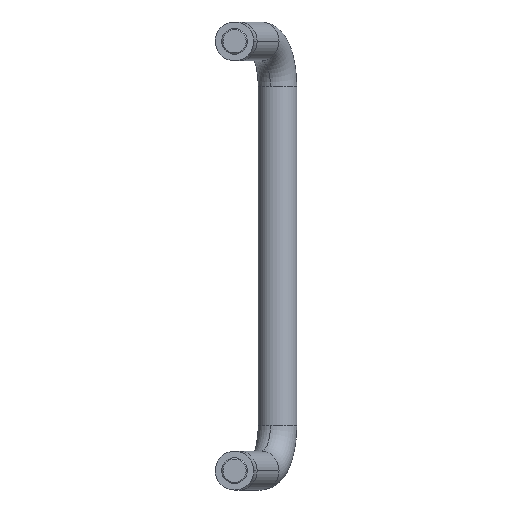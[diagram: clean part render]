
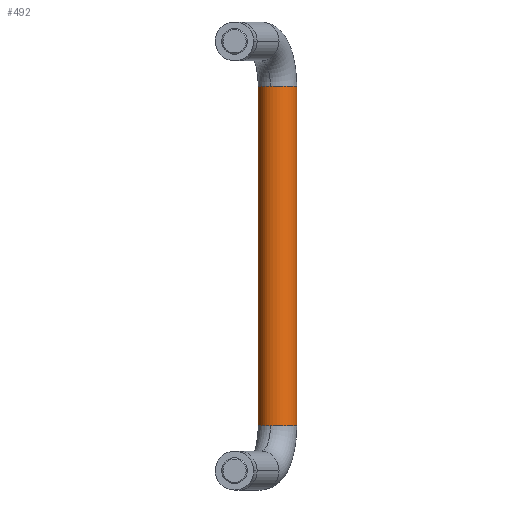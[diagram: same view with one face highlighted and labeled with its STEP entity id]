
A CAD part, front view. The second image highlights one B-rep face of the part: STEP entity #492.
In plain terms, the highlighted cylindrical face has radius 4.5 mm (diameter 9 mm), a partial arc.
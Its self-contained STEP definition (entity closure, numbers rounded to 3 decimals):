
#3 = CIRCLE ( 'NONE', #467, 4.5 ) ;
#14 = CIRCLE ( 'NONE', #456, 4.5 ) ;
#32 = CYLINDRICAL_SURFACE ( 'NONE', #432, 4.5 ) ;
#49 = FACE_OUTER_BOUND ( 'NONE', #593, .T. ) ;
#140 = EDGE_CURVE ( 'NONE', #535, #533, #767, .T. ) ;
#142 = EDGE_CURVE ( 'NONE', #529, #555, #769, .T. ) ;
#145 = EDGE_CURVE ( 'NONE', #535, #527, #776, .T. ) ;
#146 = EDGE_CURVE ( 'NONE', #520, #555, #777, .T. ) ;
#178 = AXIS2_PLACEMENT_3D ( 'NONE', #243, #244, #245 ) ;
#179 = AXIS2_PLACEMENT_3D ( 'NONE', #246, #247, #248 ) ;
#227 = DIRECTION ( 'NONE',  ( 0., 0., 1. ) ) ;
#228 = DIRECTION ( 'NONE',  ( 0., 0., 1. ) ) ;
#229 = CARTESIAN_POINT ( 'NONE',  ( 5.5, 80.501, 10.5 ) ) ;
#233 = CARTESIAN_POINT ( 'NONE',  ( 14.5, 80.501, 10.5 ) ) ;
#243 = CARTESIAN_POINT ( 'NONE',  ( 10., 80.501, 10.5 ) ) ;
#244 = DIRECTION ( 'NONE',  ( 0., 0., 1. ) ) ;
#245 = DIRECTION ( 'NONE',  ( -0.364, -0.931, 0. ) ) ;
#246 = CARTESIAN_POINT ( 'NONE',  ( 10., 80.501, 89.5 ) ) ;
#247 = DIRECTION ( 'NONE',  ( 0., 0., 1. ) ) ;
#248 = DIRECTION ( 'NONE',  ( -0.364, -0.931, 0. ) ) ;
#290 = DIRECTION ( 'NONE',  ( 1., 0., 0. ) ) ;
#292 = CARTESIAN_POINT ( 'NONE',  ( 10., 80.501, 10.5 ) ) ;
#293 = DIRECTION ( 'NONE',  ( 0., 0., 1. ) ) ;
#349 = CARTESIAN_POINT ( 'NONE',  ( 8.361, 76.31, 89.5 ) ) ;
#361 = CARTESIAN_POINT ( 'NONE',  ( 8.361, 76.31, 10.5 ) ) ;
#363 = CARTESIAN_POINT ( 'NONE',  ( 14.5, 80.501, 10.5 ) ) ;
#367 = CARTESIAN_POINT ( 'NONE',  ( 5.5, 80.501, 89.5 ) ) ;
#369 = CARTESIAN_POINT ( 'NONE',  ( 5.5, 80.501, 10.5 ) ) ;
#389 = CARTESIAN_POINT ( 'NONE',  ( 14.5, 80.501, 89.5 ) ) ;
#416 = CARTESIAN_POINT ( 'NONE',  ( 10., 80.501, 89.5 ) ) ;
#417 = DIRECTION ( 'NONE',  ( 0., 0., 1. ) ) ;
#418 = DIRECTION ( 'NONE',  ( -0.364, -0.931, 0. ) ) ;
#432 = AXIS2_PLACEMENT_3D ( 'NONE', #292, #293, #290 ) ;
#456 = AXIS2_PLACEMENT_3D ( 'NONE', #416, #417, #418 ) ;
#467 = AXIS2_PLACEMENT_3D ( 'NONE', #848, #849, #850 ) ;
#492 = ADVANCED_FACE ( 'NONE', ( #49 ), #32, .T. ) ;
#520 = VERTEX_POINT ( 'NONE', #349 ) ;
#527 = VERTEX_POINT ( 'NONE', #361 ) ;
#529 = VERTEX_POINT ( 'NONE', #363 ) ;
#533 = VERTEX_POINT ( 'NONE', #367 ) ;
#535 = VERTEX_POINT ( 'NONE', #369 ) ;
#555 = VERTEX_POINT ( 'NONE', #389 ) ;
#593 = EDGE_LOOP ( 'NONE', ( #654, #655, #656, #657, #658, #659 ) ) ;
#654 = ORIENTED_EDGE ( 'NONE', *, *, #140, .F. ) ;
#655 = ORIENTED_EDGE ( 'NONE', *, *, #145, .T. ) ;
#656 = ORIENTED_EDGE ( 'NONE', *, *, #804, .T. ) ;
#657 = ORIENTED_EDGE ( 'NONE', *, *, #142, .T. ) ;
#658 = ORIENTED_EDGE ( 'NONE', *, *, #146, .F. ) ;
#659 = ORIENTED_EDGE ( 'NONE', *, *, #793, .F. ) ;
#767 = LINE ( 'NONE', #229, #771 ) ;
#769 = LINE ( 'NONE', #233, #774 ) ;
#771 = VECTOR ( 'NONE', #227, 1000. ) ;
#774 = VECTOR ( 'NONE', #228, 1000. ) ;
#776 = CIRCLE ( 'NONE', #178, 4.5 ) ;
#777 = CIRCLE ( 'NONE', #179, 4.5 ) ;
#793 = EDGE_CURVE ( 'NONE', #533, #520, #14, .T. ) ;
#804 = EDGE_CURVE ( 'NONE', #527, #529, #3, .T. ) ;
#848 = CARTESIAN_POINT ( 'NONE',  ( 10., 80.501, 10.5 ) ) ;
#849 = DIRECTION ( 'NONE',  ( 0., 0., 1. ) ) ;
#850 = DIRECTION ( 'NONE',  ( -0.364, -0.931, 0. ) ) ;
